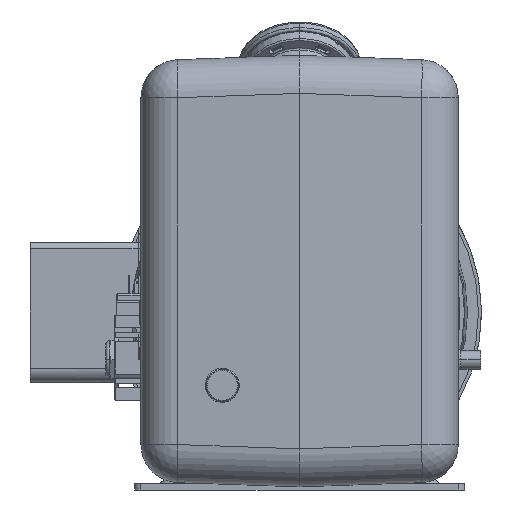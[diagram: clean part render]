
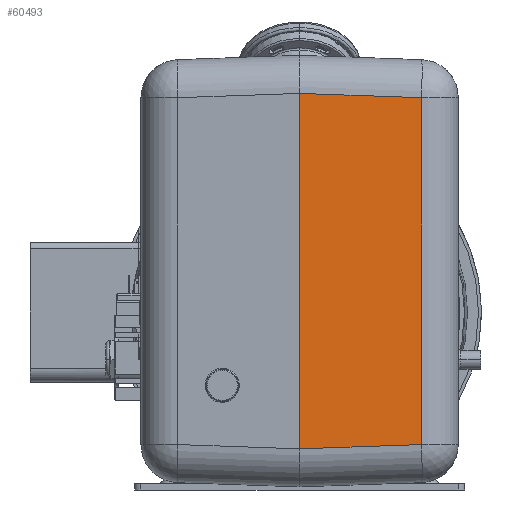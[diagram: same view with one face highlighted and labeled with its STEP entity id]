
A CAD part, front view. The second image highlights one B-rep face of the part: STEP entity #60493.
In plain terms, the highlighted planar face has unit normal (0.035, -0.999, 0).
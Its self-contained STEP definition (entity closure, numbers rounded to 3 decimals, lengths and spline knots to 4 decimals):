
#57504=DIRECTION('',(0.,0.,1.));
#57505=VECTOR('',#57504,7.0009);
#57506=CARTESIAN_POINT('',(0.,-10.905,-2.6905));
#57507=LINE('',#57506,#57505);
#57617=DIRECTION('',(-0.999,-0.035,0.035));
#57618=VECTOR('',#57617,2.4041);
#57619=CARTESIAN_POINT('',(2.4012,-10.8211,
4.2266));
#57620=LINE('',#57619,#57618);
#57630=DIRECTION('',(0.,0.,1.));
#57631=VECTOR('',#57630,6.8332);
#57632=CARTESIAN_POINT('',(2.4012,-10.8211,
-2.6066));
#57633=LINE('',#57632,#57631);
#57666=DIRECTION('',(0.999,0.035,0.035));
#57667=VECTOR('',#57666,2.4041);
#57668=CARTESIAN_POINT('',(0.,-10.905,-2.6905));
#57669=LINE('',#57668,#57667);
#58956=CARTESIAN_POINT('',(0.,-10.905,-2.6905));
#58957=VERTEX_POINT('',#58956);
#58958=CARTESIAN_POINT('',(2.4012,-10.8211,
-2.6066));
#58959=VERTEX_POINT('',#58958);
#58962=CARTESIAN_POINT('',(2.4012,-10.8211,
4.2266));
#58963=VERTEX_POINT('',#58962);
#58978=CARTESIAN_POINT('',(0.,-10.905,4.3105));
#58979=VERTEX_POINT('',#58978);
#60479=CARTESIAN_POINT('',(0.,-10.905,-3.44));
#60480=DIRECTION('',(-0.035,0.999,0.));
#60481=DIRECTION('',(0.,0.,-1.));
#60482=AXIS2_PLACEMENT_3D('',#60479,#60480,#60481);
#60483=PLANE('',#60482);
#60485=ORIENTED_EDGE('',*,*,#60484,.F.);
#60486=ORIENTED_EDGE('',*,*,#60466,.T.);
#60488=ORIENTED_EDGE('',*,*,#60487,.F.);
#60490=ORIENTED_EDGE('',*,*,#60489,.F.);
#60491=EDGE_LOOP('',(#60485,#60486,#60488,#60490));
#60492=FACE_OUTER_BOUND('',#60491,.F.);
#60493=ADVANCED_FACE('',(#60492),#60483,.F.);
#60466=EDGE_CURVE('',#58957,#58979,#57507,.T.);
#60484=EDGE_CURVE('',#58957,#58959,#57669,.T.);
#60487=EDGE_CURVE('',#58963,#58979,#57620,.T.);
#60489=EDGE_CURVE('',#58959,#58963,#57633,.T.);
